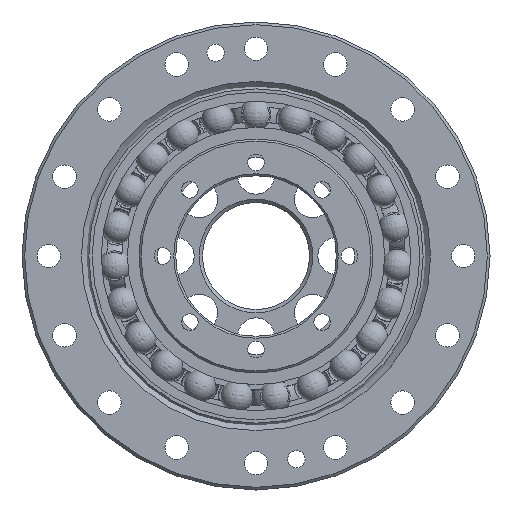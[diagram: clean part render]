
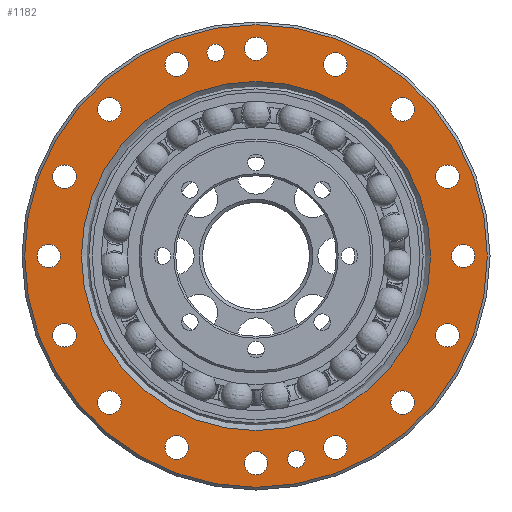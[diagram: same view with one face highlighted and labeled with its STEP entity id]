
A CAD part, left-side view. The second image highlights one B-rep face of the part: STEP entity #1182.
In plain terms, the highlighted planar face has unit normal (-1, 0, 0).
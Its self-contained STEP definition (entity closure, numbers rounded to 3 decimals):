
#993=PLANE('',#5166);
#1182=ADVANCED_FACE('',(#1411,#1412,#1413,#1414,#1415,#1416,#1417,#1418,
#1419,#1420,#1421,#1422,#1423,#1424,#1425,#1426,#1427,#1428,#1429,#1430),
#993,.F.);
#1411=FACE_BOUND('',#1859,.T.);
#1412=FACE_BOUND('',#1860,.T.);
#1413=FACE_BOUND('',#1861,.T.);
#1414=FACE_BOUND('',#1862,.T.);
#1415=FACE_BOUND('',#1863,.T.);
#1416=FACE_BOUND('',#1864,.T.);
#1417=FACE_BOUND('',#1865,.T.);
#1418=FACE_BOUND('',#1866,.T.);
#1419=FACE_BOUND('',#1867,.T.);
#1420=FACE_BOUND('',#1868,.T.);
#1421=FACE_BOUND('',#1869,.T.);
#1422=FACE_BOUND('',#1870,.T.);
#1423=FACE_BOUND('',#1871,.T.);
#1424=FACE_BOUND('',#1872,.T.);
#1425=FACE_BOUND('',#1873,.T.);
#1426=FACE_BOUND('',#1874,.T.);
#1427=FACE_BOUND('',#1875,.T.);
#1428=FACE_BOUND('',#1876,.T.);
#1429=FACE_BOUND('',#1877,.T.);
#1430=FACE_BOUND('',#1878,.T.);
#1859=EDGE_LOOP('',(#3083));
#1860=EDGE_LOOP('',(#3084));
#1861=EDGE_LOOP('',(#3085));
#1862=EDGE_LOOP('',(#3086));
#1863=EDGE_LOOP('',(#3087));
#1864=EDGE_LOOP('',(#3088));
#1865=EDGE_LOOP('',(#3089));
#1866=EDGE_LOOP('',(#3090));
#1867=EDGE_LOOP('',(#3091));
#1868=EDGE_LOOP('',(#3092));
#1869=EDGE_LOOP('',(#3093));
#1870=EDGE_LOOP('',(#3094));
#1871=EDGE_LOOP('',(#3095));
#1872=EDGE_LOOP('',(#3096));
#1873=EDGE_LOOP('',(#3097));
#1874=EDGE_LOOP('',(#3098));
#1875=EDGE_LOOP('',(#3099));
#1876=EDGE_LOOP('',(#3100));
#1877=EDGE_LOOP('',(#3101));
#1878=EDGE_LOOP('',(#3102));
#3083=ORIENTED_EDGE('',*,*,#4288,.T.);
#3084=ORIENTED_EDGE('',*,*,#4289,.T.);
#3085=ORIENTED_EDGE('',*,*,#4290,.T.);
#3086=ORIENTED_EDGE('',*,*,#4291,.T.);
#3087=ORIENTED_EDGE('',*,*,#4292,.T.);
#3088=ORIENTED_EDGE('',*,*,#4293,.T.);
#3089=ORIENTED_EDGE('',*,*,#4294,.T.);
#3090=ORIENTED_EDGE('',*,*,#4295,.T.);
#3091=ORIENTED_EDGE('',*,*,#4296,.T.);
#3092=ORIENTED_EDGE('',*,*,#4297,.T.);
#3093=ORIENTED_EDGE('',*,*,#4298,.T.);
#3094=ORIENTED_EDGE('',*,*,#4299,.T.);
#3095=ORIENTED_EDGE('',*,*,#4300,.T.);
#3096=ORIENTED_EDGE('',*,*,#4301,.T.);
#3097=ORIENTED_EDGE('',*,*,#4302,.T.);
#3098=ORIENTED_EDGE('',*,*,#4303,.T.);
#3099=ORIENTED_EDGE('',*,*,#4304,.T.);
#3100=ORIENTED_EDGE('',*,*,#4305,.T.);
#3101=ORIENTED_EDGE('',*,*,#4306,.T.);
#3102=ORIENTED_EDGE('',*,*,#4307,.T.);
#3654=VERTEX_POINT('',#11434);
#3655=VERTEX_POINT('',#11436);
#3656=VERTEX_POINT('',#11438);
#3657=VERTEX_POINT('',#11440);
#3658=VERTEX_POINT('',#11442);
#3659=VERTEX_POINT('',#11444);
#3660=VERTEX_POINT('',#11446);
#3661=VERTEX_POINT('',#11448);
#3662=VERTEX_POINT('',#11450);
#3663=VERTEX_POINT('',#11452);
#3664=VERTEX_POINT('',#11454);
#3665=VERTEX_POINT('',#11456);
#3666=VERTEX_POINT('',#11458);
#3667=VERTEX_POINT('',#11460);
#3668=VERTEX_POINT('',#11462);
#3669=VERTEX_POINT('',#11464);
#3670=VERTEX_POINT('',#11466);
#3671=VERTEX_POINT('',#11468);
#3672=VERTEX_POINT('',#11470);
#3673=VERTEX_POINT('',#11472);
#4288=EDGE_CURVE('',#3654,#3654,#4594,.T.);
#4289=EDGE_CURVE('',#3655,#3655,#4595,.T.);
#4290=EDGE_CURVE('',#3656,#3656,#4596,.T.);
#4291=EDGE_CURVE('',#3657,#3657,#4597,.T.);
#4292=EDGE_CURVE('',#3658,#3658,#4598,.T.);
#4293=EDGE_CURVE('',#3659,#3659,#4599,.T.);
#4294=EDGE_CURVE('',#3660,#3660,#4600,.T.);
#4295=EDGE_CURVE('',#3661,#3661,#4601,.T.);
#4296=EDGE_CURVE('',#3662,#3662,#4602,.T.);
#4297=EDGE_CURVE('',#3663,#3663,#4603,.T.);
#4298=EDGE_CURVE('',#3664,#3664,#4604,.T.);
#4299=EDGE_CURVE('',#3665,#3665,#4605,.T.);
#4300=EDGE_CURVE('',#3666,#3666,#4606,.T.);
#4301=EDGE_CURVE('',#3667,#3667,#4607,.T.);
#4302=EDGE_CURVE('',#3668,#3668,#4608,.T.);
#4303=EDGE_CURVE('',#3669,#3669,#4609,.T.);
#4304=EDGE_CURVE('',#3670,#3670,#4610,.T.);
#4305=EDGE_CURVE('',#3671,#3671,#4611,.T.);
#4306=EDGE_CURVE('',#3672,#3672,#4612,.T.);
#4307=EDGE_CURVE('',#3673,#3673,#4613,.T.);
#4594=CIRCLE('',#5146,26.105);
#4595=CIRCLE('',#5147,34.6);
#4596=CIRCLE('',#5148,1.3);
#4597=CIRCLE('',#5149,1.3);
#4598=CIRCLE('',#5150,1.75);
#4599=CIRCLE('',#5151,1.75);
#4600=CIRCLE('',#5152,1.75);
#4601=CIRCLE('',#5153,1.75);
#4602=CIRCLE('',#5154,1.75);
#4603=CIRCLE('',#5155,1.75);
#4604=CIRCLE('',#5156,1.75);
#4605=CIRCLE('',#5157,1.75);
#4606=CIRCLE('',#5158,1.75);
#4607=CIRCLE('',#5159,1.75);
#4608=CIRCLE('',#5160,1.75);
#4609=CIRCLE('',#5161,1.75);
#4610=CIRCLE('',#5162,1.75);
#4611=CIRCLE('',#5163,1.75);
#4612=CIRCLE('',#5164,1.75);
#4613=CIRCLE('',#5165,1.75);
#5146=AXIS2_PLACEMENT_3D('',#11433,#6141,#6142);
#5147=AXIS2_PLACEMENT_3D('',#11435,#6143,#6144);
#5148=AXIS2_PLACEMENT_3D('',#11437,#6145,#6146);
#5149=AXIS2_PLACEMENT_3D('',#11439,#6147,#6148);
#5150=AXIS2_PLACEMENT_3D('',#11441,#6149,#6150);
#5151=AXIS2_PLACEMENT_3D('',#11443,#6151,#6152);
#5152=AXIS2_PLACEMENT_3D('',#11445,#6153,#6154);
#5153=AXIS2_PLACEMENT_3D('',#11447,#6155,#6156);
#5154=AXIS2_PLACEMENT_3D('',#11449,#6157,#6158);
#5155=AXIS2_PLACEMENT_3D('',#11451,#6159,#6160);
#5156=AXIS2_PLACEMENT_3D('',#11453,#6161,#6162);
#5157=AXIS2_PLACEMENT_3D('',#11455,#6163,#6164);
#5158=AXIS2_PLACEMENT_3D('',#11457,#6165,#6166);
#5159=AXIS2_PLACEMENT_3D('',#11459,#6167,#6168);
#5160=AXIS2_PLACEMENT_3D('',#11461,#6169,#6170);
#5161=AXIS2_PLACEMENT_3D('',#11463,#6171,#6172);
#5162=AXIS2_PLACEMENT_3D('',#11465,#6173,#6174);
#5163=AXIS2_PLACEMENT_3D('',#11467,#6175,#6176);
#5164=AXIS2_PLACEMENT_3D('',#11469,#6177,#6178);
#5165=AXIS2_PLACEMENT_3D('',#11471,#6179,#6180);
#5166=AXIS2_PLACEMENT_3D('',#11473,#6181,#6182);
#6141=DIRECTION('',(1.,0.,0.));
#6142=DIRECTION('',(0.,0.,-1.));
#6143=DIRECTION('',(-1.,0.,0.));
#6144=DIRECTION('',(0.,0.,-1.));
#6145=DIRECTION('',(1.,0.,0.));
#6146=DIRECTION('',(0.,0.,-1.));
#6147=DIRECTION('',(1.,0.,0.));
#6148=DIRECTION('',(0.,0.,-1.));
#6149=DIRECTION('',(1.,0.,0.));
#6150=DIRECTION('',(0.,0.,-1.));
#6151=DIRECTION('',(1.,0.,0.));
#6152=DIRECTION('',(0.,0.,-1.));
#6153=DIRECTION('',(1.,0.,0.));
#6154=DIRECTION('',(0.,0.,-1.));
#6155=DIRECTION('',(1.,0.,0.));
#6156=DIRECTION('',(0.,0.,-1.));
#6157=DIRECTION('',(1.,0.,0.));
#6158=DIRECTION('',(0.,0.,-1.));
#6159=DIRECTION('',(1.,0.,0.));
#6160=DIRECTION('',(0.,0.,-1.));
#6161=DIRECTION('',(1.,0.,0.));
#6162=DIRECTION('',(0.,0.,-1.));
#6163=DIRECTION('',(1.,0.,0.));
#6164=DIRECTION('',(0.,0.,-1.));
#6165=DIRECTION('',(1.,0.,0.));
#6166=DIRECTION('',(0.,0.,-1.));
#6167=DIRECTION('',(1.,0.,0.));
#6168=DIRECTION('',(0.,0.,-1.));
#6169=DIRECTION('',(1.,0.,0.));
#6170=DIRECTION('',(0.,0.,-1.));
#6171=DIRECTION('',(1.,0.,0.));
#6172=DIRECTION('',(0.,0.,-1.));
#6173=DIRECTION('',(1.,0.,0.));
#6174=DIRECTION('',(0.,0.,-1.));
#6175=DIRECTION('',(1.,0.,0.));
#6176=DIRECTION('',(0.,0.,-1.));
#6177=DIRECTION('',(1.,0.,0.));
#6178=DIRECTION('',(0.,0.,-1.));
#6179=DIRECTION('',(1.,0.,0.));
#6180=DIRECTION('',(0.,0.,-1.));
#6181=DIRECTION('',(1.,0.,0.));
#6182=DIRECTION('',(0.,0.,-1.));
#11433=CARTESIAN_POINT('',(0.,0.,0.));
#11434=CARTESIAN_POINT('',(0.,0.,-26.105));
#11435=CARTESIAN_POINT('',(0.,0.,0.));
#11436=CARTESIAN_POINT('',(0.,0.,-34.6));
#11437=CARTESIAN_POINT('',(0.,-6.048,-30.404));
#11438=CARTESIAN_POINT('',(0.,-6.048,-31.704));
#11439=CARTESIAN_POINT('',(0.,6.048,30.404));
#11440=CARTESIAN_POINT('',(0.,6.048,29.104));
#11441=CARTESIAN_POINT('',(0.,-28.64,11.863));
#11442=CARTESIAN_POINT('',(0.,-28.64,10.113));
#11443=CARTESIAN_POINT('',(0.,-21.92,21.92));
#11444=CARTESIAN_POINT('',(0.,-21.92,20.17));
#11445=CARTESIAN_POINT('',(0.,-11.863,28.64));
#11446=CARTESIAN_POINT('',(0.,-11.863,26.89));
#11447=CARTESIAN_POINT('',(0.,0.,31.));
#11448=CARTESIAN_POINT('',(0.,0.,29.25));
#11449=CARTESIAN_POINT('',(0.,11.863,28.64));
#11450=CARTESIAN_POINT('',(0.,11.863,26.89));
#11451=CARTESIAN_POINT('',(0.,21.92,21.92));
#11452=CARTESIAN_POINT('',(0.,21.92,20.17));
#11453=CARTESIAN_POINT('',(0.,28.64,11.863));
#11454=CARTESIAN_POINT('',(0.,28.64,10.113));
#11455=CARTESIAN_POINT('',(0.,31.,0.));
#11456=CARTESIAN_POINT('',(0.,31.,-1.75));
#11457=CARTESIAN_POINT('',(0.,28.64,-11.863));
#11458=CARTESIAN_POINT('',(0.,28.64,-13.613));
#11459=CARTESIAN_POINT('',(0.,21.92,-21.92));
#11460=CARTESIAN_POINT('',(0.,21.92,-23.67));
#11461=CARTESIAN_POINT('',(0.,11.863,-28.64));
#11462=CARTESIAN_POINT('',(0.,11.863,-30.39));
#11463=CARTESIAN_POINT('',(0.,0.,-31.));
#11464=CARTESIAN_POINT('',(0.,0.,-32.75));
#11465=CARTESIAN_POINT('',(0.,-11.863,-28.64));
#11466=CARTESIAN_POINT('',(0.,-11.863,-30.39));
#11467=CARTESIAN_POINT('',(0.,-21.92,-21.92));
#11468=CARTESIAN_POINT('',(0.,-21.92,-23.67));
#11469=CARTESIAN_POINT('',(0.,-28.64,-11.863));
#11470=CARTESIAN_POINT('',(0.,-28.64,-13.613));
#11471=CARTESIAN_POINT('',(0.,-31.,0.));
#11472=CARTESIAN_POINT('',(0.,-31.,-1.75));
#11473=CARTESIAN_POINT('',(0.,0.,35.));
